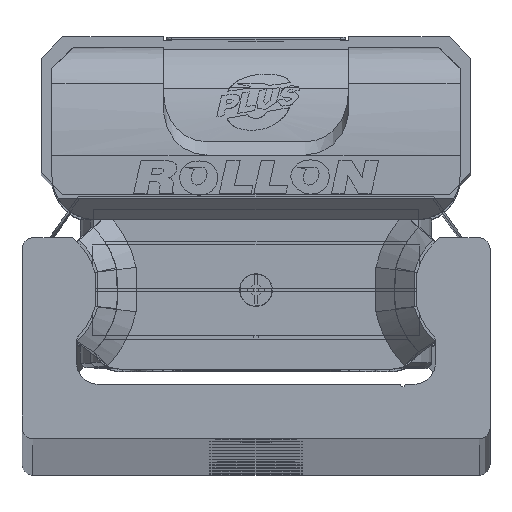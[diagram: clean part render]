
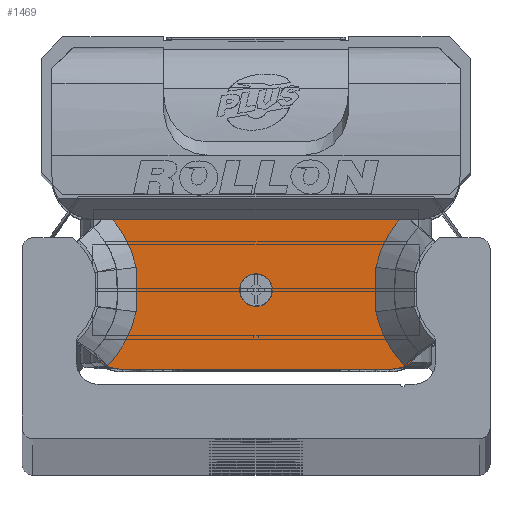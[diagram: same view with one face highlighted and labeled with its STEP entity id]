
A CAD part, top view. The second image highlights one B-rep face of the part: STEP entity #1469.
In plain terms, the highlighted planar face has unit normal (0, 0, 1) as drawn and (0, 0, -1) by its records, which use the part's own axes.
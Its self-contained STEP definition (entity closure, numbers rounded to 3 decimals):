
#1469 = ADVANCED_FACE( '', ( #3338, #3339 ), #3340, .F. );
#3338 = FACE_BOUND( '', #5735, .T. );
#3339 = FACE_OUTER_BOUND( '', #5736, .T. );
#3340 = PLANE( '', #5737 );
#5735 = EDGE_LOOP( '', ( #9706 ) );
#5736 = EDGE_LOOP( '', ( #9707, #9708, #9709, #9710, #9711, #9712, #9713, #9714, #9715, #9716, #9717, #9718 ) );
#5737 = AXIS2_PLACEMENT_3D( '', #9719, #9720, #9721 );
#9706 = ORIENTED_EDGE( '', *, *, #14364, .T. );
#9707 = ORIENTED_EDGE( '', *, *, #14365, .T. );
#9708 = ORIENTED_EDGE( '', *, *, #14366, .F. );
#9709 = ORIENTED_EDGE( '', *, *, #14367, .T. );
#9710 = ORIENTED_EDGE( '', *, *, #13020, .F. );
#9711 = ORIENTED_EDGE( '', *, *, #14058, .T. );
#9712 = ORIENTED_EDGE( '', *, *, #13101, .T. );
#9713 = ORIENTED_EDGE( '', *, *, #14368, .T. );
#9714 = ORIENTED_EDGE( '', *, *, #14077, .T. );
#9715 = ORIENTED_EDGE( '', *, *, #13429, .T. );
#9716 = ORIENTED_EDGE( '', *, *, #14181, .T. );
#9717 = ORIENTED_EDGE( '', *, *, #14369, .T. );
#9718 = ORIENTED_EDGE( '', *, *, #14283, .T. );
#9719 = CARTESIAN_POINT( '', ( 14.9, 7.35, -13.25 ) );
#9720 = DIRECTION( '', ( 0., 0., 1. ) );
#9721 = DIRECTION( '', ( 1., 0., 0. ) );
#13020 = EDGE_CURVE( '', #15376, #15377, #15378, .T. );
#13101 = EDGE_CURVE( '', #15521, #15519, #15522, .T. );
#13429 = EDGE_CURVE( '', #16089, #16087, #16090, .T. );
#14058 = EDGE_CURVE( '', #15376, #15521, #17102, .T. );
#14077 = EDGE_CURVE( '', #17131, #16089, #17132, .T. );
#14181 = EDGE_CURVE( '', #16087, #17283, #17285, .T. );
#14283 = EDGE_CURVE( '', #17435, #17433, #17436, .T. );
#14364 = EDGE_CURVE( '', #17553, #17553, #17554, .T. );
#14365 = EDGE_CURVE( '', #17433, #15650, #17555, .T. );
#14366 = EDGE_CURVE( '', #17556, #15650, #17557, .T. );
#14367 = EDGE_CURVE( '', #17556, #15377, #17558, .T. );
#14368 = EDGE_CURVE( '', #15519, #17131, #17559, .T. );
#14369 = EDGE_CURVE( '', #17283, #17435, #17560, .T. );
#15376 = VERTEX_POINT( '', #18838 );
#15377 = VERTEX_POINT( '', #18839 );
#15378 = CIRCLE( '', #18840, 2.5 );
#15519 = VERTEX_POINT( '', #19022 );
#15521 = VERTEX_POINT( '', #19025 );
#15522 = B_SPLINE_CURVE_WITH_KNOTS( '', 2, ( #19026, #19027, #19028, #19029, #19030 ), .UNSPECIFIED., .F., .F., ( 3, 2, 3 ), ( 0., 0.5, 1. ), .UNSPECIFIED. );
#15650 = VERTEX_POINT( '', #19198 );
#16087 = VERTEX_POINT( '', #19830 );
#16089 = VERTEX_POINT( '', #19835 );
#16090 = LINE( '', #19836, #19837 );
#17102 = B_SPLINE_CURVE_WITH_KNOTS( '', 1, ( #21213, #21214 ), .UNSPECIFIED., .F., .F., ( 2, 2 ), ( 0., 1. ), .UNSPECIFIED. );
#17131 = VERTEX_POINT( '', #21254 );
#17132 = B_SPLINE_CURVE_WITH_KNOTS( '', 2, ( #21255, #21256, #21257, #21258, #21259 ), .UNSPECIFIED., .F., .F., ( 3, 2, 3 ), ( 0., 0.5, 0.868 ), .UNSPECIFIED. );
#17283 = VERTEX_POINT( '', #21502 );
#17285 = B_SPLINE_CURVE_WITH_KNOTS( '', 2, ( #21505, #21506, #21507, #21508, #21509 ), .UNSPECIFIED., .F., .F., ( 3, 2, 3 ), ( 0.133, 0.5, 1. ), .UNSPECIFIED. );
#17433 = VERTEX_POINT( '', #21736 );
#17435 = VERTEX_POINT( '', #21739 );
#17436 = B_SPLINE_CURVE_WITH_KNOTS( '', 2, ( #21740, #21741, #21742, #21743, #21744 ), .UNSPECIFIED., .F., .F., ( 3, 2, 3 ), ( 0., 0.5, 1. ), .UNSPECIFIED. );
#17553 = VERTEX_POINT( '', #21886 );
#17554 = CIRCLE( '', #21887, 1.5 );
#17555 = B_SPLINE_CURVE_WITH_KNOTS( '', 1, ( #21888, #21889 ), .UNSPECIFIED., .F., .F., ( 2, 2 ), ( 0., 1. ), .UNSPECIFIED. );
#17556 = VERTEX_POINT( '', #21890 );
#17557 = CIRCLE( '', #21891, 2.5 );
#17558 = LINE( '', #21892, #21893 );
#17559 = B_SPLINE_CURVE_WITH_KNOTS( '', 2, ( #21894, #21895, #21896 ), .UNSPECIFIED., .F., .F., ( 3, 3 ), ( 0., 1. ), .UNSPECIFIED. );
#17560 = B_SPLINE_CURVE_WITH_KNOTS( '', 2, ( #21897, #21898, #21899 ), .UNSPECIFIED., .F., .F., ( 3, 3 ), ( 0., 1. ), .UNSPECIFIED. );
#18838 = CARTESIAN_POINT( '', ( -14.904, -5.718, -13.25 ) );
#18839 = CARTESIAN_POINT( '', ( -12.58, -7.3, -13.25 ) );
#18840 = AXIS2_PLACEMENT_3D( '', #23530, #23531, #23532 );
#19022 = CARTESIAN_POINT( '', ( -11.012, -2.045, -13.25 ) );
#19025 = CARTESIAN_POINT( '', ( -13.628, -6.965, -13.25 ) );
#19026 = CARTESIAN_POINT( '', ( -13.628, -6.965, -13.25 ) );
#19027 = CARTESIAN_POINT( '', ( -12.638, -5.946, -13.25 ) );
#19028 = CARTESIAN_POINT( '', ( -11.97, -4.691, -13.25 ) );
#19029 = CARTESIAN_POINT( '', ( -11.303, -3.437, -13.25 ) );
#19030 = CARTESIAN_POINT( '', ( -11.012, -2.045, -13.25 ) );
#19198 = CARTESIAN_POINT( '', ( 14.906, -5.717, -13.25 ) );
#19830 = CARTESIAN_POINT( '', ( 13.12, 6.4, -13.25 ) );
#19835 = CARTESIAN_POINT( '', ( -13.119, 6.4, -13.25 ) );
#19836 = CARTESIAN_POINT( '', ( 14.9, 6.4, -13.25 ) );
#19837 = VECTOR( '', #24054, 1000. );
#21213 = CARTESIAN_POINT( '', ( -14.915, -5.713, -13.25 ) );
#21214 = CARTESIAN_POINT( '', ( -13.628, -6.965, -13.25 ) );
#21254 = CARTESIAN_POINT( '', ( -11.012, 2.045, -13.25 ) );
#21255 = CARTESIAN_POINT( '', ( -11.012, 2.045, -13.25 ) );
#21256 = CARTESIAN_POINT( '', ( -11.302, 3.432, -13.25 ) );
#21257 = CARTESIAN_POINT( '', ( -11.967, 4.685, -13.25 ) );
#21258 = CARTESIAN_POINT( '', ( -12.456, 5.606, -13.25 ) );
#21259 = CARTESIAN_POINT( '', ( -13.119, 6.4, -13.25 ) );
#21502 = CARTESIAN_POINT( '', ( 11.012, 2.045, -13.25 ) );
#21505 = CARTESIAN_POINT( '', ( 13.119, 6.4, -13.25 ) );
#21506 = CARTESIAN_POINT( '', ( 12.459, 5.608, -13.25 ) );
#21507 = CARTESIAN_POINT( '', ( 11.968, 4.684, -13.25 ) );
#21508 = CARTESIAN_POINT( '', ( 11.301, 3.427, -13.25 ) );
#21509 = CARTESIAN_POINT( '', ( 11.012, 2.045, -13.25 ) );
#21736 = CARTESIAN_POINT( '', ( 13.628, -6.965, -13.25 ) );
#21739 = CARTESIAN_POINT( '', ( 11.012, -2.045, -13.25 ) );
#21740 = CARTESIAN_POINT( '', ( 11.012, -2.045, -13.25 ) );
#21741 = CARTESIAN_POINT( '', ( 11.301, -3.43, -13.25 ) );
#21742 = CARTESIAN_POINT( '', ( 11.972, -4.69, -13.25 ) );
#21743 = CARTESIAN_POINT( '', ( 12.642, -5.95, -13.25 ) );
#21744 = CARTESIAN_POINT( '', ( 13.628, -6.965, -13.25 ) );
#21886 = CARTESIAN_POINT( '', ( 1.5, -0.05, -13.25 ) );
#21887 = AXIS2_PLACEMENT_3D( '', #25319, #25320, #25321 );
#21888 = CARTESIAN_POINT( '', ( 13.628, -6.965, -13.25 ) );
#21889 = CARTESIAN_POINT( '', ( 14.9, -5.728, -13.25 ) );
#21890 = CARTESIAN_POINT( '', ( 12.58, -7.3, -13.25 ) );
#21891 = AXIS2_PLACEMENT_3D( '', #25322, #25323, #25324 );
#21892 = CARTESIAN_POINT( '', ( 12.58, -7.3, -13.25 ) );
#21893 = VECTOR( '', #25325, 1000. );
#21894 = CARTESIAN_POINT( '', ( -11.012, -2.045, -13.25 ) );
#21895 = CARTESIAN_POINT( '', ( -10.888, 0., -13.25 ) );
#21896 = CARTESIAN_POINT( '', ( -11.012, 2.045, -13.25 ) );
#21897 = CARTESIAN_POINT( '', ( 11.012, 2.045, -13.25 ) );
#21898 = CARTESIAN_POINT( '', ( 10.888, 0., -13.25 ) );
#21899 = CARTESIAN_POINT( '', ( 11.012, -2.045, -13.25 ) );
#23530 = CARTESIAN_POINT( '', ( -12.58, -4.8, -13.25 ) );
#23531 = DIRECTION( '', ( 0., 0., 1. ) );
#23532 = DIRECTION( '', ( 1., 0., 0. ) );
#24054 = DIRECTION( '', ( 1., 0., 0. ) );
#25319 = CARTESIAN_POINT( '', ( 0., -0.05, -13.25 ) );
#25320 = DIRECTION( '', ( 0., 0., 1. ) );
#25321 = DIRECTION( '', ( 1., 0., 0. ) );
#25322 = CARTESIAN_POINT( '', ( 12.58, -4.8, -13.25 ) );
#25323 = DIRECTION( '', ( 0., 0., 1. ) );
#25324 = DIRECTION( '', ( 1., 0., 0. ) );
#25325 = DIRECTION( '', ( -1., 0., 0. ) );
